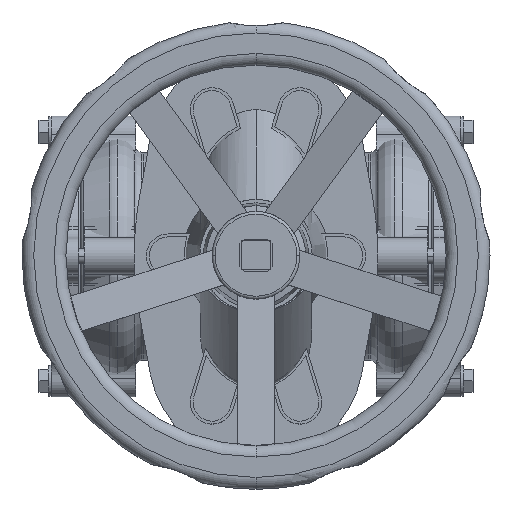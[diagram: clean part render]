
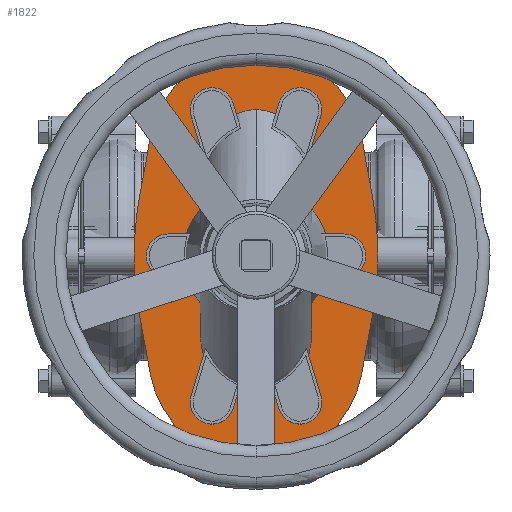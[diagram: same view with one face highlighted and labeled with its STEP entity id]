
A CAD part, top view. The second image highlights one B-rep face of the part: STEP entity #1822.
In plain terms, the highlighted planar face has unit normal (0, 0, 1).
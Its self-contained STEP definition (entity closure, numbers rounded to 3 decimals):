
#1822=ADVANCED_FACE('',(#4024),#4025,.T.);
#4024=FACE_OUTER_BOUND('',#7285,.T.);
#4025=PLANE('',#7286);
#7285=EDGE_LOOP('',(#10072,#10073,#10074,#10075,#10076,#10077,#10078,#10079,#10080,#10081,#10082,#10083,#10084,#10085));
#7286=AXIS2_PLACEMENT_3D('',#10086,#10087,#10088);
#10072=ORIENTED_EDGE('',*,*,#17505,.F.);
#10073=ORIENTED_EDGE('',*,*,#17506,.F.);
#10074=ORIENTED_EDGE('',*,*,#17507,.F.);
#10075=ORIENTED_EDGE('',*,*,#17508,.F.);
#10076=ORIENTED_EDGE('',*,*,#17509,.F.);
#10077=ORIENTED_EDGE('',*,*,#17510,.F.);
#10078=ORIENTED_EDGE('',*,*,#17511,.F.);
#10079=ORIENTED_EDGE('',*,*,#17512,.F.);
#10080=ORIENTED_EDGE('',*,*,#17513,.F.);
#10081=ORIENTED_EDGE('',*,*,#17514,.F.);
#10082=ORIENTED_EDGE('',*,*,#17515,.F.);
#10083=ORIENTED_EDGE('',*,*,#17516,.F.);
#10084=ORIENTED_EDGE('',*,*,#17517,.F.);
#10085=ORIENTED_EDGE('',*,*,#17518,.F.);
#10086=CARTESIAN_POINT('',(50.,0.,198.0));
#10087=DIRECTION('',(0.0,0.0,1.0));
#10088=DIRECTION('',(1.0,0.0,0.0));
#17505=EDGE_CURVE('',#20418,#20419,#20420,.T.);
#17506=EDGE_CURVE('',#20421,#20418,#20422,.T.);
#17507=EDGE_CURVE('',#20423,#20421,#20424,.T.);
#17508=EDGE_CURVE('',#20425,#20423,#20426,.T.);
#17509=EDGE_CURVE('',#20427,#20425,#20428,.T.);
#17510=EDGE_CURVE('',#20429,#20427,#20430,.T.);
#17511=EDGE_CURVE('',#20431,#20429,#20432,.T.);
#17512=EDGE_CURVE('',#20433,#20431,#20434,.T.);
#17513=EDGE_CURVE('',#20435,#20433,#20436,.T.);
#17514=EDGE_CURVE('',#20437,#20435,#20438,.T.);
#17515=EDGE_CURVE('',#20439,#20437,#20440,.T.);
#17516=EDGE_CURVE('',#20441,#20439,#20442,.T.);
#17517=EDGE_CURVE('',#20443,#20441,#20444,.T.);
#17518=EDGE_CURVE('',#20419,#20443,#20445,.T.);
#20418=VERTEX_POINT('',#24637);
#20419=VERTEX_POINT('',#24638);
#20420=CIRCLE('',#24639,73.49);
#20421=VERTEX_POINT('',#24640);
#20422=LINE('',#24641,#24642);
#20423=VERTEX_POINT('',#24643);
#20424=CIRCLE('',#24644,222.594);
#20425=VERTEX_POINT('',#24645);
#20426=CIRCLE('',#24646,222.594);
#20427=VERTEX_POINT('',#24647);
#20428=CIRCLE('',#24648,222.594);
#20429=VERTEX_POINT('',#24649);
#20430=CIRCLE('',#24650,222.594);
#20431=VERTEX_POINT('',#24651);
#20432=LINE('',#24652,#24653);
#20433=VERTEX_POINT('',#24654);
#20434=CIRCLE('',#24655,73.49);
#20435=VERTEX_POINT('',#24656);
#20436=LINE('',#24657,#24658);
#20437=VERTEX_POINT('',#24659);
#20438=CIRCLE('',#24660,222.594);
#20439=VERTEX_POINT('',#24661);
#20440=CIRCLE('',#24662,222.594);
#20441=VERTEX_POINT('',#24663);
#20442=CIRCLE('',#24664,222.594);
#20443=VERTEX_POINT('',#24665);
#20444=CIRCLE('',#24666,222.594);
#20445=LINE('',#24667,#24668);
#24637=CARTESIAN_POINT('',(122.289,-80.73,198.0));
#24638=CARTESIAN_POINT('',(-22.29,-80.73,198.0));
#24639=AXIS2_PLACEMENT_3D('',#30270,#30271,#30272);
#24640=CARTESIAN_POINT('',(129.621,-40.665,198.0));
#24641=CARTESIAN_POINT('',(122.289,-80.73,198.0));
#24642=VECTOR('',#30273,1.0);
#24643=CARTESIAN_POINT('',(133.258,-0.594,198.0));
#24644=AXIS2_PLACEMENT_3D('',#30274,#30275,#30276);
#24645=CARTESIAN_POINT('',(133.257,0.,198.0));
#24646=AXIS2_PLACEMENT_3D('',#30277,#30278,#30279);
#24647=CARTESIAN_POINT('',(133.258,0.594,198.0));
#24648=AXIS2_PLACEMENT_3D('',#30280,#30281,#30282);
#24649=CARTESIAN_POINT('',(129.621,40.665,198.0));
#24650=AXIS2_PLACEMENT_3D('',#30283,#30284,#30285);
#24651=CARTESIAN_POINT('',(122.289,80.73,198.0));
#24652=CARTESIAN_POINT('',(129.621,40.665,198.0));
#24653=VECTOR('',#30286,1.0);
#24654=CARTESIAN_POINT('',(-22.29,80.73,198.0));
#24655=AXIS2_PLACEMENT_3D('',#30287,#30288,#30289);
#24656=CARTESIAN_POINT('',(-29.622,40.665,198.0));
#24657=CARTESIAN_POINT('',(-22.29,80.73,198.0));
#24658=VECTOR('',#30290,1.0);
#24659=CARTESIAN_POINT('',(-33.258,0.593,198.0));
#24660=AXIS2_PLACEMENT_3D('',#30291,#30292,#30293);
#24661=CARTESIAN_POINT('',(-33.258,0.001,198.0));
#24662=AXIS2_PLACEMENT_3D('',#30294,#30295,#30296);
#24663=CARTESIAN_POINT('',(-33.258,-0.593,198.0));
#24664=AXIS2_PLACEMENT_3D('',#30297,#30298,#30299);
#24665=CARTESIAN_POINT('',(-29.622,-40.665,198.0));
#24666=AXIS2_PLACEMENT_3D('',#30300,#30301,#30302);
#24667=CARTESIAN_POINT('',(-29.622,-40.665,198.0));
#24668=VECTOR('',#30303,1.0);
#30270=CARTESIAN_POINT('',(50.,-67.5,198.0));
#30271=DIRECTION('',(0.0,0.0,-1.0));
#30272=DIRECTION('',(1.0,0.0,0.0));
#30273=DIRECTION('',(-0.18,-0.984,-0.0));
#30274=CARTESIAN_POINT('',(-89.336,-0.594,198.0));
#30275=DIRECTION('',(0.0,0.0,-1.0));
#30276=DIRECTION('',(1.0,0.0,0.0));
#30277=CARTESIAN_POINT('',(-89.336,-0.594,198.0));
#30278=DIRECTION('',(0.0,0.0,-1.0));
#30279=DIRECTION('',(1.0,0.0,0.0));
#30280=CARTESIAN_POINT('',(-89.336,0.594,198.0));
#30281=DIRECTION('',(0.0,0.0,-1.0));
#30282=DIRECTION('',(1.0,0.0,0.0));
#30283=CARTESIAN_POINT('',(-89.336,0.594,198.0));
#30284=DIRECTION('',(0.0,0.0,-1.0));
#30285=DIRECTION('',(1.0,0.0,0.0));
#30286=DIRECTION('',(0.18,-0.984,0.0));
#30287=CARTESIAN_POINT('',(50.,67.5,198.0));
#30288=DIRECTION('',(0.0,0.0,-1.0));
#30289=DIRECTION('',(1.0,0.0,0.0));
#30290=DIRECTION('',(0.18,0.984,0.0));
#30291=CARTESIAN_POINT('',(189.336,0.593,198.0));
#30292=DIRECTION('',(0.0,0.0,-1.0));
#30293=DIRECTION('',(1.0,0.0,0.0));
#30294=CARTESIAN_POINT('',(189.336,0.593,198.0));
#30295=DIRECTION('',(0.0,0.0,-1.0));
#30296=DIRECTION('',(1.0,0.0,0.0));
#30297=CARTESIAN_POINT('',(189.336,-0.593,198.0));
#30298=DIRECTION('',(0.0,0.0,-1.0));
#30299=DIRECTION('',(1.0,0.0,0.0));
#30300=CARTESIAN_POINT('',(189.336,-0.593,198.0));
#30301=DIRECTION('',(0.0,0.0,-1.0));
#30302=DIRECTION('',(1.0,0.0,0.0));
#30303=DIRECTION('',(-0.18,0.984,0.0));
